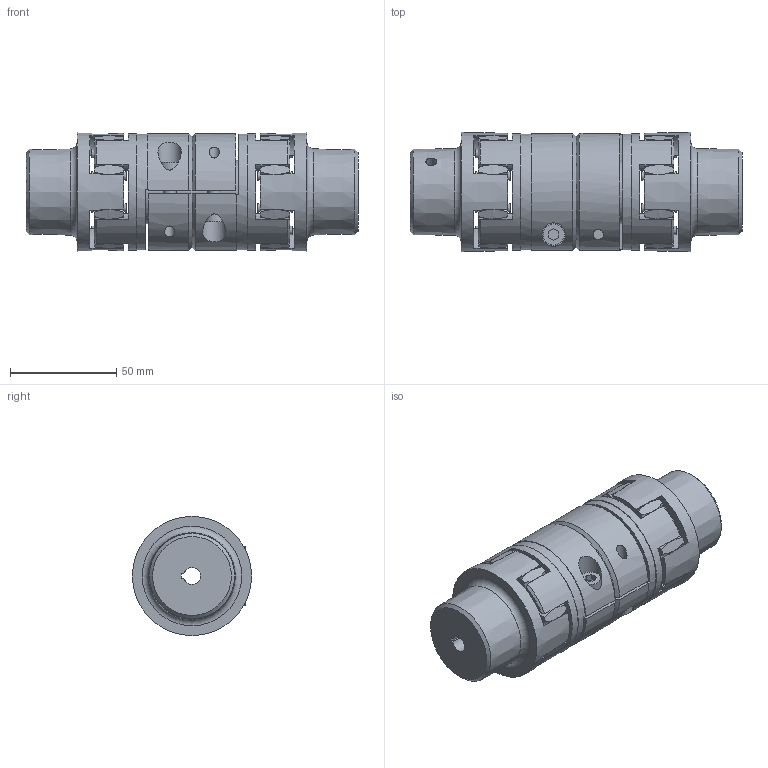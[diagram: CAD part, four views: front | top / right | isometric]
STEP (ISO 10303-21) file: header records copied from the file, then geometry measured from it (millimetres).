
FILE_DESCRIPTION(/* description */ (''),/* implementation_level */ '2;1');
FILE_NAME(/* name */ 'VRRP24-L96-8-PF-8-PF',/* time_stamp */ '2024-01-05T15:32:02+01:00',/* author */ ('M. Horlacher'),/* organization */ (''),/* preprocessor_version */ 'ST-DEVELOPER v20',/* originating_system */ 'Autodesk Inventor 2024',/* authorisation */ '');
FILE_SCHEMA (('AUTOMOTIVE_DESIGN { 1 0 10303 214 3 1 1 }'));
Length unit declared in the file: millimetre
Products named in the file (6): RP STEP; RP24 ø30H7-KL-AL; RP24 Stern 92Shore; RP24-Nabe_1; RP24-Nabe_1_1; VE Rohr Dummy
Assembly tree (7 placements, depth 2):
  RP STEP
    RP24 ø30H7-KL-AL  x2
    RP24 Stern 92Shore  x2
    RP24-Nabe_1
    RP24-Nabe_1_1
    VE Rohr Dummy
Bounding box: 156 x 56 x 56 mm (x, y, z)
Volume: 251068.5 mm3; surface area: 83553.3 mm2
Topology: 9 solids, 9 shells, 286 faces, 736 edges, 492 vertices
Faces by surface type: plane 104, cylinder 74, bspline 64, cone 42, torus 2
Full cylindrical faces by diameter (mm): 4 x16, 4.8 x2, 5 x2, 6 x2, 6.6 x4, 10 x2, 11 x2, 22 x1, 27 x2, 30 x3, 54.4 x2, 55 x2
Entity records: 7032 total; most frequent: CARTESIAN_POINT 2542, ORIENTED_EDGE 902, DIRECTION 888, EDGE_CURVE 451, AXIS2_PLACEMENT_3D 386, VERTEX_POINT 302, CIRCLE 214, EDGE_LOOP 203
